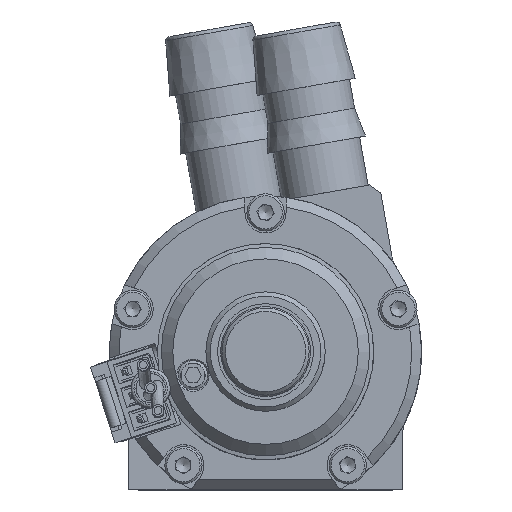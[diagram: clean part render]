
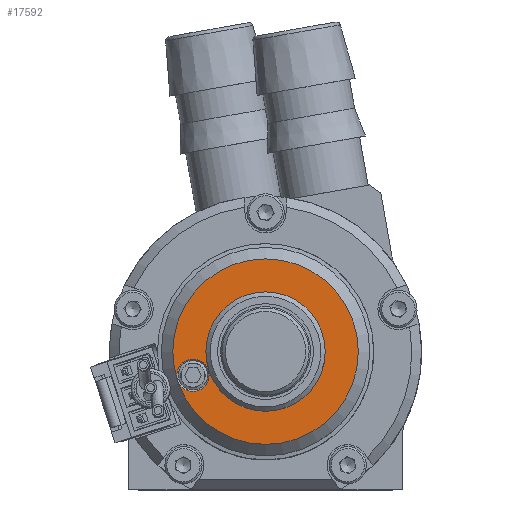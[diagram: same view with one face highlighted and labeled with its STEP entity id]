
A CAD part, top view. The second image highlights one B-rep face of the part: STEP entity #17592.
In plain terms, the highlighted planar face has unit normal (0, 0, 1) as drawn and (0, 0, -1) by its records, which use the part's own axes.
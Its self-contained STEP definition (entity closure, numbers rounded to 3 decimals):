
#2325 = AXIS2_PLACEMENT_3D ( 'NONE', #10769, #2356, #9420 ) ;
#2356 = DIRECTION ( 'NONE',  ( 0., 0., 1. ) ) ;
#2724 = AXIS2_PLACEMENT_3D ( 'NONE', #6176, #13155, #3190 ) ;
#2981 = DIRECTION ( 'NONE',  ( 0., 0., 1. ) ) ;
#2982 = CIRCLE ( 'NONE', #7954, 9.48 ) ;
#3190 = DIRECTION ( 'NONE',  ( -1., 0., 0. ) ) ;
#3616 = EDGE_LOOP ( 'NONE', ( #4950 ) ) ;
#4950 = ORIENTED_EDGE ( 'NONE', *, *, #14702, .F. ) ;
#5224 = ORIENTED_EDGE ( 'NONE', *, *, #5456, .T. ) ;
#5456 = EDGE_CURVE ( 'NONE', #15111, #15111, #13095, .T. ) ;
#6176 = CARTESIAN_POINT ( 'NONE',  ( 0., 12.184, -1.17 ) ) ;
#6217 = FACE_OUTER_BOUND ( 'NONE', #3616, .T. ) ;
#6269 = CARTESIAN_POINT ( 'NONE',  ( 6.1, 0., -1.17 ) ) ;
#6717 = VERTEX_POINT ( 'NONE', #10075 ) ;
#7079 = CIRCLE ( 'NONE', #7974, 1.65 ) ;
#7436 = DIRECTION ( 'NONE',  ( 0., 0., -1. ) ) ;
#7954 = AXIS2_PLACEMENT_3D ( 'NONE', #14352, #2981, #12818 ) ;
#7974 = AXIS2_PLACEMENT_3D ( 'NONE', #14987, #7436, #14524 ) ;
#9420 = DIRECTION ( 'NONE',  ( 1., 0., 0. ) ) ;
#10075 = CARTESIAN_POINT ( 'NONE',  ( -9.48, 0., -1.17 ) ) ;
#10278 = ORIENTED_EDGE ( 'NONE', *, *, #15963, .F. ) ;
#10769 = CARTESIAN_POINT ( 'NONE',  ( 0., 0., -1.17 ) ) ;
#10819 = FACE_BOUND ( 'NONE', #12006, .T. ) ;
#12006 = EDGE_LOOP ( 'NONE', ( #5224 ) ) ;
#12818 = DIRECTION ( 'NONE',  ( -1., 0., 0. ) ) ;
#13095 = CIRCLE ( 'NONE', #2325, 6.1 ) ;
#13155 = DIRECTION ( 'NONE',  ( 0., 0., -1. ) ) ;
#13444 = EDGE_LOOP ( 'NONE', ( #10278 ) ) ;
#13696 = FACE_BOUND ( 'NONE', #13444, .T. ) ;
#14000 = VERTEX_POINT ( 'NONE', #15641 ) ;
#14352 = CARTESIAN_POINT ( 'NONE',  ( 0., 0., -1.17 ) ) ;
#14524 = DIRECTION ( 'NONE',  ( -1., 0., 0. ) ) ;
#14702 = EDGE_CURVE ( 'NONE', #6717, #6717, #2982, .T. ) ;
#14987 = CARTESIAN_POINT ( 'NONE',  ( 7.418, -2.41, -1.17 ) ) ;
#15111 = VERTEX_POINT ( 'NONE', #6269 ) ;
#15641 = CARTESIAN_POINT ( 'NONE',  ( 5.768, -2.41, -1.17 ) ) ;
#15925 = PLANE ( 'NONE',  #2724 ) ;
#15963 = EDGE_CURVE ( 'NONE', #14000, #14000, #7079, .T. ) ;
#17592 = ADVANCED_FACE ( 'NONE', ( #13696, #6217, #10819 ), #15925, .T. ) ;
